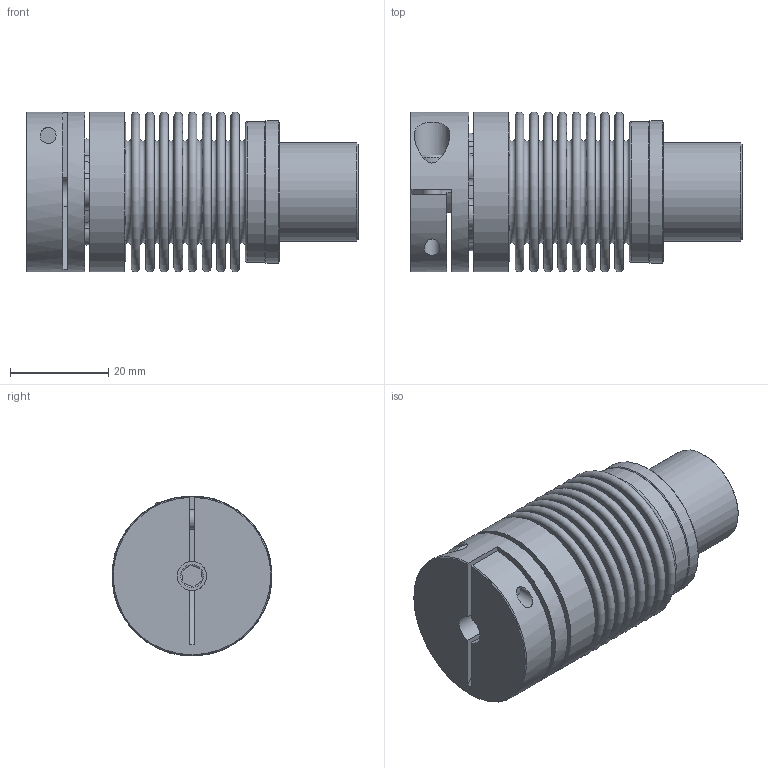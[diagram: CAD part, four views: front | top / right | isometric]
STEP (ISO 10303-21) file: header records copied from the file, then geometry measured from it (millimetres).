
FILE_DESCRIPTION( ( 'KBE1/14 - N7H8 - N14H7 - 98 Sh' ), '1' );
FILE_NAME( 'K:/Konstruktion/Fertigungszeichnungen/Metallbalgkupplung/KB3P/45/KB3P-45-52.stp', '14.12.2015', ( 'KBK-Antriebstechnik' ), ( 'KBK-Antriebstechnik' ), 'PSStep 16.0.42', 'Solid Edge St6', ' ' );
FILE_SCHEMA( ( 'AUTOMOTIVE_DESIGN { 1 0 10303 214 1 1 1 1 }' ) );
Length unit declared in the file: millimetre
Products named in the file (7): Assem1; ISO EN DIN 4762 M5x20; ISO EN DIN 4762 M4x12; SN45; Stecknabe KB2P-45; Balgaufnahme KB2P-45 für Step; BL45_Standard_0
Assembly tree (6 placements, depth 2):
  Assem1
    ISO EN DIN 4762 M5x20
    ISO EN DIN 4762 M4x12
    SN45
    Stecknabe KB2P-45
    Balgaufnahme KB2P-45 für Step
    BL45_Standard_0
Bounding box: 67.65 x 32.6 x 32.6 mm (x, y, z)
Volume: 26951.1 mm3; surface area: 31928.7 mm2
Topology: 6 solids, 6 shells, 207 faces, 419 edges, 269 vertices
Faces by surface type: plane 76, cone 67, torus 42, cylinder 22
Full cylindrical faces by diameter (mm): 3.242 x1, 3.5 x1, 4 x2, 4.2 x1, 5 x1, 5.5 x1, 6 x1, 7 x1, 7.3 x1, 8.5 x1, 20 x1, 28.2 x3, 28.8 x2, 29 x1, 32.5 x2
Entity records: 7097 total; most frequent: CARTESIAN_POINT 1039, DIRECTION 991, ORIENTED_EDGE 684, AXIS2_PLACEMENT_3D 452, EDGE_CURVE 342, EDGE_LOOP 332, VERTEX_POINT 276, FACE_OUTER_BOUND 269
